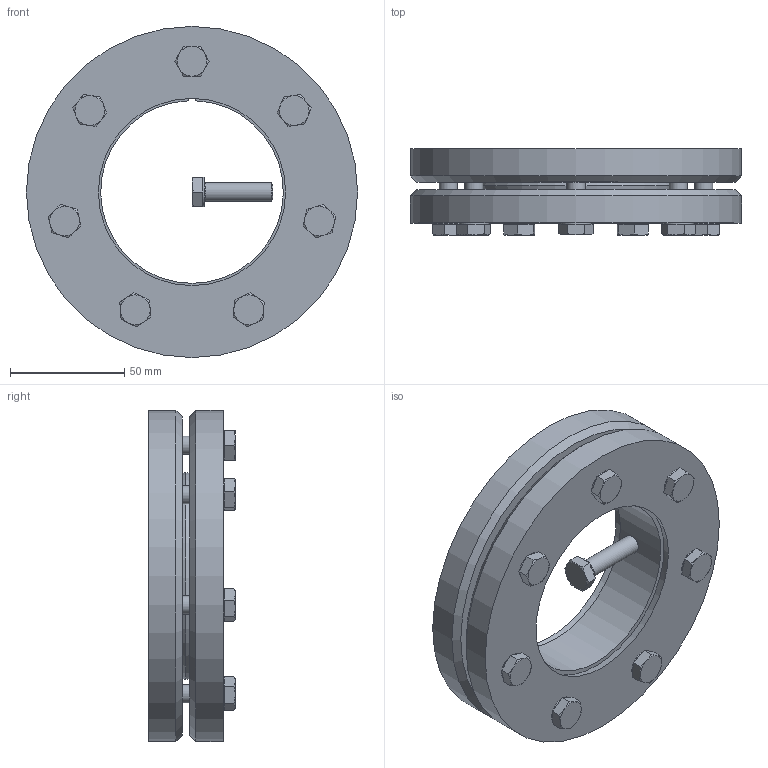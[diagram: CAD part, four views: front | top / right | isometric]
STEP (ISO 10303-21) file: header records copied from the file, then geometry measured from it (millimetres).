
FILE_DESCRIPTION( ( 'Unknown' ), '1' );
FILE_NAME( 'C:/Dokumente und Einstellungen/Sven/Desktop/homepage/cad - homepage/KBS19/KBS 19 - 80 x 145.stp', 'Unknown', ( 'Unknown' ), ( 'Unknown' ), 'XStep 1.0', 'Unknown', ' ' );
FILE_SCHEMA( ( 'automotive_design' ) );
Length unit declared in the file: millimetre
Products named in the file (3): Assem1; KBS 19 - 80 x 145; ISO 4017 - M8 x 30-N
Bounding box: 145 x 37.8 x 145 mm (x, y, z)
Volume: 665273.6 mm3; surface area: 147760.4 mm2
Topology: 10 solids, 10 shells, 274 faces, 640 edges, 394 vertices
Faces by surface type: plane 148, cone 68, cylinder 50, torus 8
Full cylindrical faces by diameter (mm): 8 x36, 13 x8, 145 x4
Entity records: 2022 total; most frequent: CARTESIAN_POINT 330, DIRECTION 312, ORIENTED_EDGE 244, AXIS2_PLACEMENT_3D 135, EDGE_CURVE 122, EDGE_LOOP 119, VERTEX_POINT 89, FACE_OUTER_BOUND 81
